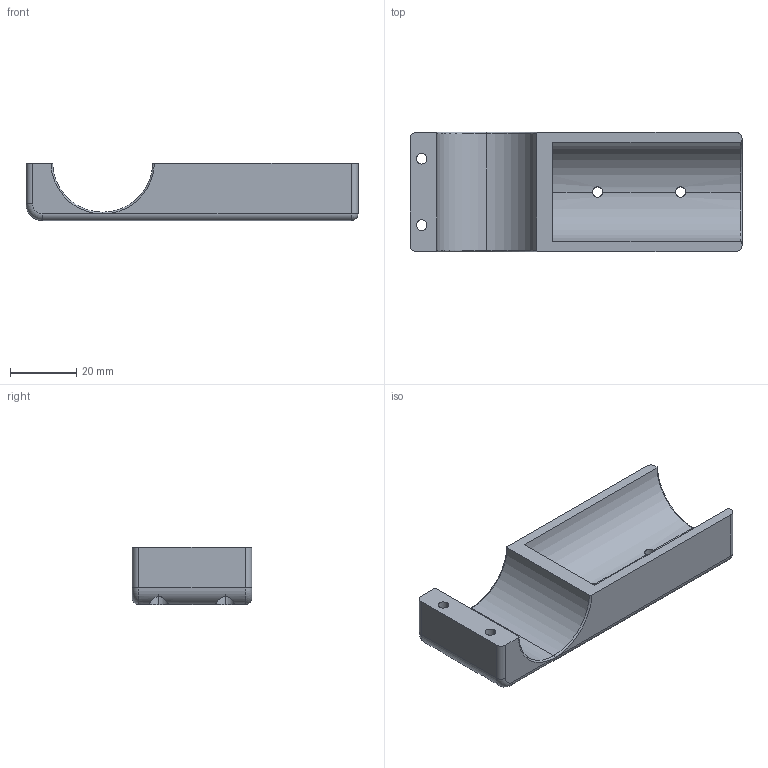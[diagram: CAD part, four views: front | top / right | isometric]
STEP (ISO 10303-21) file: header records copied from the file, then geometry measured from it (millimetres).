
FILE_DESCRIPTION (( 'STEP AP214' ), '1' );
FILE_NAME ('脚架中心拉杆管夹母-2.STEP', '2024-05-30T01:50:59', ( 'China' ), ( 'Microsoft' ), 'SwSTEP 2.0', 'SolidWorks 2021', '' );
FILE_SCHEMA (( 'AUTOMOTIVE_DESIGN' ));
Length unit declared in the file: millimetre
Products named in the file (1): 脚架中心拉杆管夹母-2
Bounding box: 100 x 36 x 17.2 mm (x, y, z)
Volume: 28986.3 mm3; surface area: 12752.2 mm2
Topology: 1 solids, 1 shells, 45 faces, 117 edges, 70 vertices
Faces by surface type: cylinder 24, plane 12, torus 7, sphere 2
Entity records: 1606 total; most frequent: CARTESIAN_POINT 453, DIRECTION 246, ORIENTED_EDGE 230, EDGE_CURVE 115, AXIS2_PLACEMENT_3D 99, VERTEX_POINT 70, CIRCLE 53, EDGE_LOOP 51
